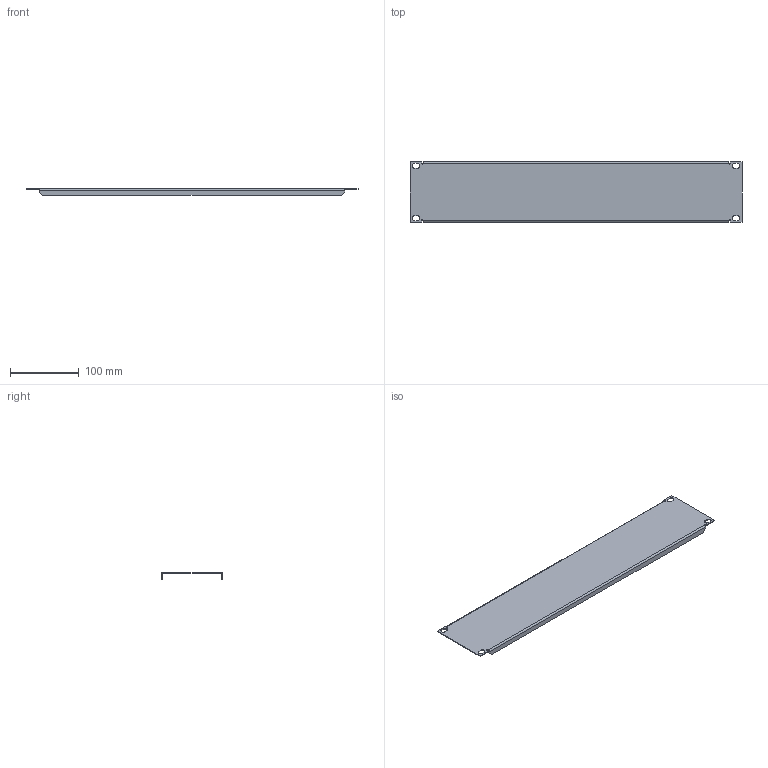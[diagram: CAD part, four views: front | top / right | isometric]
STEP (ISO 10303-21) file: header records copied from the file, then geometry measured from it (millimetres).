
FILE_DESCRIPTION (( 'STEP AP203' ), '1' );
FILE_NAME ('MB 20.48 I Ïàíåëü ãëóõàÿ 19''''.STEP', '2013-01-12T07:02:40', ( 'System' ), ( '' ), 'SwSTEP 2.0', 'SolidWorks 2012', '' );
FILE_SCHEMA (( 'CONFIG_CONTROL_DESIGN' ));
Length unit declared in the file: millimetre
Products named in the file (1): MB 20.48 I Ïàíåëü ãëóõàÿ 19''''
Bounding box: 482.6 x 88.1 x 10 mm (x, y, z)
Volume: 59172.5 mm3; surface area: 100188 mm2
Topology: 1 solids, 1 shells, 58 faces, 152 edges, 96 vertices
Faces by surface type: plane 38, cylinder 20
Entity records: 1861 total; most frequent: DIRECTION 310, CARTESIAN_POINT 307, ORIENTED_EDGE 304, EDGE_CURVE 152, VECTOR 112, LINE 112, AXIS2_PLACEMENT_3D 99, VERTEX_POINT 96
